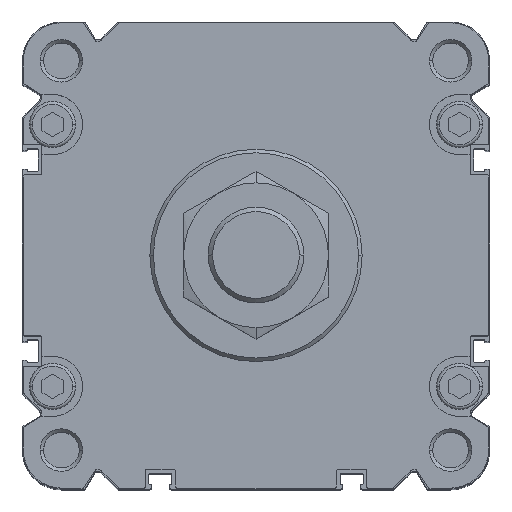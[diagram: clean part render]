
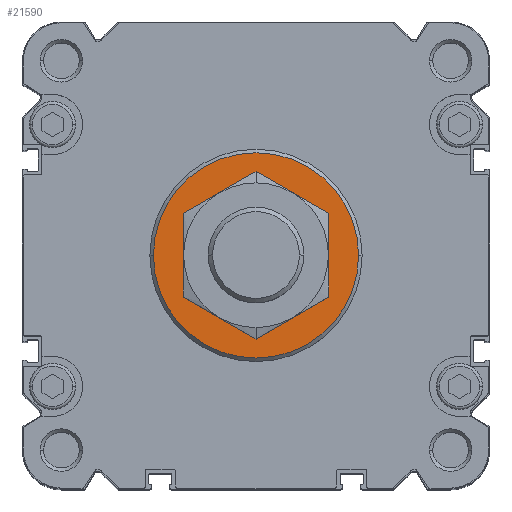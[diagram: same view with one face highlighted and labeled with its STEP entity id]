
A CAD part, top view. The second image highlights one B-rep face of the part: STEP entity #21590.
In plain terms, the highlighted planar face has unit normal (0, 0, 1).
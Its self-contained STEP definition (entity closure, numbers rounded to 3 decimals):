
#506 = ORIENTED_EDGE ( 'NONE', *, *, #16347, .F. ) ;
#520 = DIRECTION ( 'NONE',  ( 0., 0., -1. ) ) ;
#1082 = CARTESIAN_POINT ( 'NONE',  ( 0., -29., 4. ) ) ;
#1088 = AXIS2_PLACEMENT_3D ( 'NONE', #1082, #22065, #6529 ) ;
#1412 = DIRECTION ( 'NONE',  ( 0., 0., -1. ) ) ;
#2216 = AXIS2_PLACEMENT_3D ( 'NONE', #13137, #4568, #18478 ) ;
#3181 = AXIS2_PLACEMENT_3D ( 'NONE', #6858, #1412, #8492 ) ;
#3553 = EDGE_CURVE ( 'NONE', #3696, #11353, #8879, .T. ) ;
#3696 = VERTEX_POINT ( 'NONE', #18935 ) ;
#4011 = DIRECTION ( 'NONE',  ( 1., 0., 0. ) ) ;
#4568 = DIRECTION ( 'NONE',  ( 0., 0., -1. ) ) ;
#5415 = CIRCLE ( 'NONE', #3181, 16. ) ;
#6173 = VERTEX_POINT ( 'NONE', #13710 ) ;
#6529 = DIRECTION ( 'NONE',  ( -1., 0., 0. ) ) ;
#6797 = EDGE_LOOP ( 'NONE', ( #19491, #11911 ) ) ;
#6858 = CARTESIAN_POINT ( 'NONE',  ( 0., 0., 4. ) ) ;
#7425 = EDGE_LOOP ( 'NONE', ( #506, #19966 ) ) ;
#7962 = CARTESIAN_POINT ( 'NONE',  ( -16., 0., 4. ) ) ;
#8492 = DIRECTION ( 'NONE',  ( 1., 0., 0. ) ) ;
#8879 = CIRCLE ( 'NONE', #2216, 29. ) ;
#10642 = CIRCLE ( 'NONE', #20245, 29. ) ;
#11353 = VERTEX_POINT ( 'NONE', #20464 ) ;
#11721 = AXIS2_PLACEMENT_3D ( 'NONE', #13410, #16995, #20715 ) ;
#11911 = ORIENTED_EDGE ( 'NONE', *, *, #12933, .T. ) ;
#12933 = EDGE_CURVE ( 'NONE', #14767, #6173, #5415, .T. ) ;
#13137 = CARTESIAN_POINT ( 'NONE',  ( 0., 0., 4. ) ) ;
#13410 = CARTESIAN_POINT ( 'NONE',  ( 0., 0., 4. ) ) ;
#13710 = CARTESIAN_POINT ( 'NONE',  ( 16., 0., 4. ) ) ;
#14767 = VERTEX_POINT ( 'NONE', #7962 ) ;
#14979 = FACE_BOUND ( 'NONE', #6797, .T. ) ;
#16041 = EDGE_CURVE ( 'NONE', #6173, #14767, #22832, .T. ) ;
#16347 = EDGE_CURVE ( 'NONE', #11353, #3696, #10642, .T. ) ;
#16957 = FACE_OUTER_BOUND ( 'NONE', #7425, .T. ) ;
#16995 = DIRECTION ( 'NONE',  ( 0., 0., -1. ) ) ;
#18478 = DIRECTION ( 'NONE',  ( 1., 0., 0. ) ) ;
#18935 = CARTESIAN_POINT ( 'NONE',  ( -29., 0., 4. ) ) ;
#19491 = ORIENTED_EDGE ( 'NONE', *, *, #16041, .T. ) ;
#19884 = CARTESIAN_POINT ( 'NONE',  ( 0., 0., 4. ) ) ;
#19966 = ORIENTED_EDGE ( 'NONE', *, *, #3553, .F. ) ;
#20245 = AXIS2_PLACEMENT_3D ( 'NONE', #19884, #520, #4011 ) ;
#20464 = CARTESIAN_POINT ( 'NONE',  ( 29., 0., 4. ) ) ;
#20715 = DIRECTION ( 'NONE',  ( 1., 0., 0. ) ) ;
#21590 = ADVANCED_FACE ( 'NONE', ( #16957, #14979 ), #22411, .T. ) ;
#22065 = DIRECTION ( 'NONE',  ( 0., 0., 1. ) ) ;
#22411 = PLANE ( 'NONE',  #1088 ) ;
#22832 = CIRCLE ( 'NONE', #11721, 16. ) ;
